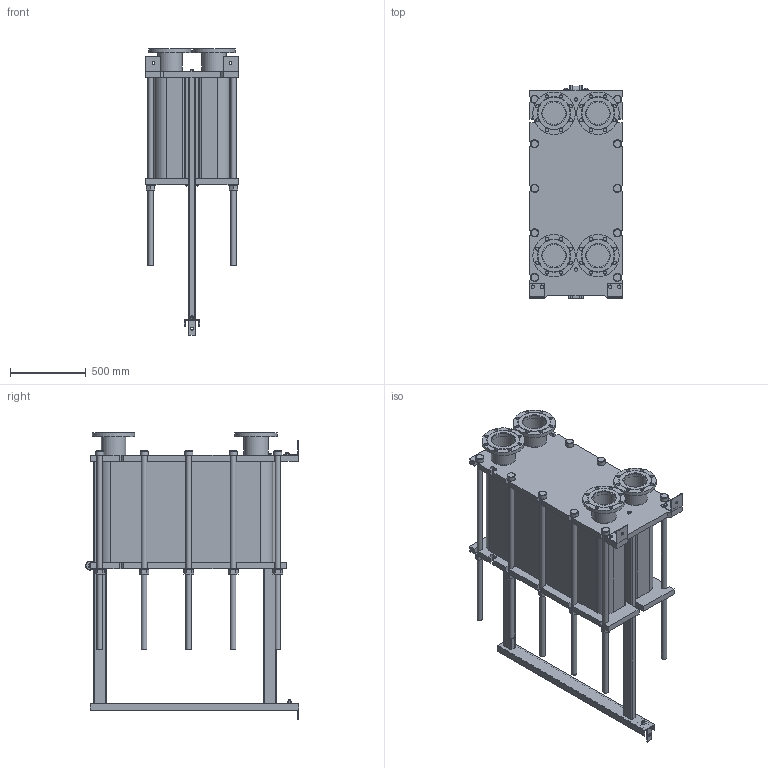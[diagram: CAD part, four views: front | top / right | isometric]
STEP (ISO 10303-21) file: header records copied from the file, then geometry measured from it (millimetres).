
FILE_DESCRIPTION(/* description */ (''),/* implementation_level */ '2;1');
FILE_NAME(/* name */ 'C:\Users\zhuro\Desktop\ENCO\TO\ЭН-041\ЭН-0,5-041-194-1.stp',/* time_stamp */ '2022-06-06T11:05:58+03:00',/* author */ ('zhuro'),/* organization */ (''),/* preprocessor_version */ 'ST-DEVELOPER v18.1',/* originating_system */ 'Autodesk Inventor 2022',/* authorisation */ '');
FILE_SCHEMA (('AUTOMOTIVE_DESIGN { 1 0 10303 214 3 1 1 }'));
Length unit declared in the file: millimetre
Products named in the file (1): ЭН-0,5-041-194-1
Bounding box: 610 x 1406.5 x 1895 mm (x, y, z)
Volume: 463518043.1 mm3; surface area: 11097134 mm2
Topology: 52 solids, 52 shells, 711 faces, 1696 edges, 1094 vertices
Faces by surface type: plane 487, cylinder 177, cone 41, torus 6
Full cylindrical faces by diameter (mm): 8 x4, 10 x2, 16 x8, 18 x3, 22 x32, 36 x24, 50 x1, 54 x10, 60 x12, 151 x4, 161 x8, 280 x4
Entity records: 22667 total; most frequent: CARTESIAN_POINT 5230, DIRECTION 3644, ORIENTED_EDGE 3392, EDGE_CURVE 1696, AXIS2_PLACEMENT_3D 1272, LINE 1100, VECTOR 1100, VERTEX_POINT 1094
